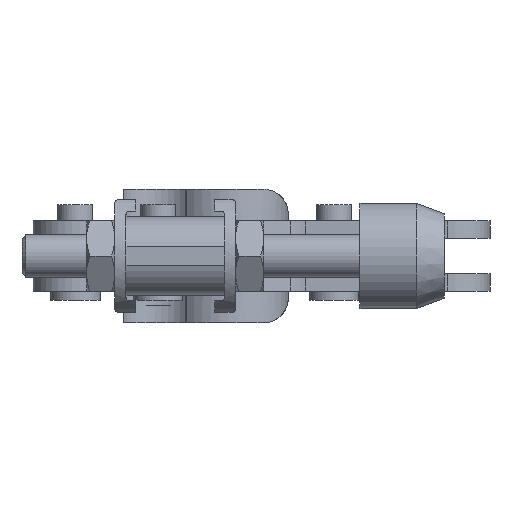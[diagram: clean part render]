
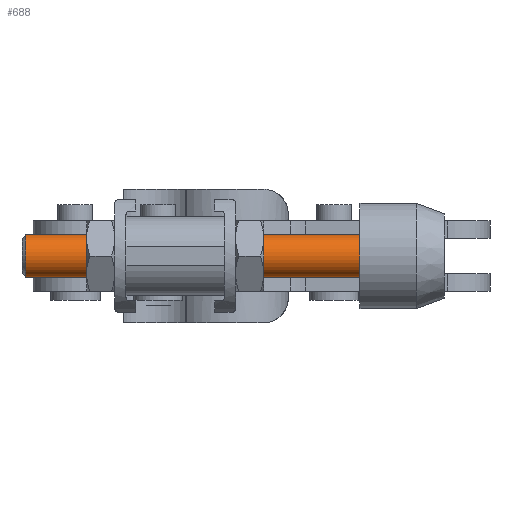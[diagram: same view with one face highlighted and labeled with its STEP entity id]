
A CAD part, left-side view. The second image highlights one B-rep face of the part: STEP entity #688.
In plain terms, the highlighted cylindrical face has radius 3 mm (diameter 6 mm), a partial arc.
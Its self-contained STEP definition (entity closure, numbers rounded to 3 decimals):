
#688 = ADVANCED_FACE( '', ( #1293 ), #1294, .T. );
#1293 = FACE_OUTER_BOUND( '', #1908, .T. );
#1294 = CYLINDRICAL_SURFACE( '', #1909, 3. );
#1908 = EDGE_LOOP( '', ( #4194, #4195, #4196, #4197 ) );
#1909 = AXIS2_PLACEMENT_3D( '', #4198, #4199, #4200 );
#4194 = ORIENTED_EDGE( '', *, *, #4979, .F. );
#4195 = ORIENTED_EDGE( '', *, *, #4980, .T. );
#4196 = ORIENTED_EDGE( '', *, *, #4981, .F. );
#4197 = ORIENTED_EDGE( '', *, *, #4976, .F. );
#4198 = CARTESIAN_POINT( '', ( -55.4, 42.3, 0. ) );
#4199 = DIRECTION( '', ( 0., -1., 0. ) );
#4200 = DIRECTION( '', ( 0., 0., -1. ) );
#4976 = EDGE_CURVE( '', #6175, #6178, #6179, .T. );
#4979 = EDGE_CURVE( '', #6183, #6175, #6184, .T. );
#4980 = EDGE_CURVE( '', #6183, #6185, #6186, .T. );
#4981 = EDGE_CURVE( '', #6178, #6185, #6187, .T. );
#6175 = VERTEX_POINT( '', #8388 );
#6178 = VERTEX_POINT( '', #8392 );
#6179 = CIRCLE( '', #8393, 3. );
#6183 = VERTEX_POINT( '', #8398 );
#6184 = LINE( '', #8399, #8400 );
#6185 = VERTEX_POINT( '', #8401 );
#6186 = CIRCLE( '', #8402, 3. );
#6187 = LINE( '', #8403, #8404 );
#8388 = CARTESIAN_POINT( '', ( -55.4, 66.1, -3. ) );
#8392 = CARTESIAN_POINT( '', ( -55.4, 66.1, 3. ) );
#8393 = AXIS2_PLACEMENT_3D( '', #9684, #9685, #9686 );
#8398 = CARTESIAN_POINT( '', ( -55.4, 18.5, -3. ) );
#8399 = CARTESIAN_POINT( '', ( -55.4, 42.3, -3. ) );
#8400 = VECTOR( '', #9691, 1. );
#8401 = CARTESIAN_POINT( '', ( -55.4, 18.5, 3. ) );
#8402 = AXIS2_PLACEMENT_3D( '', #9692, #9693, #9694 );
#8403 = CARTESIAN_POINT( '', ( -55.4, 42.3, 3. ) );
#8404 = VECTOR( '', #9695, 1. );
#9684 = CARTESIAN_POINT( '', ( -55.4, 66.1, 0. ) );
#9685 = DIRECTION( '', ( 0., 1., 0. ) );
#9686 = DIRECTION( '', ( 0., 0., -1. ) );
#9691 = DIRECTION( '', ( 0., 1., 0. ) );
#9692 = CARTESIAN_POINT( '', ( -55.4, 18.5, 0. ) );
#9693 = DIRECTION( '', ( 0., 1., 0. ) );
#9694 = DIRECTION( '', ( 0., 0., -1. ) );
#9695 = DIRECTION( '', ( 0., -1., 0. ) );
